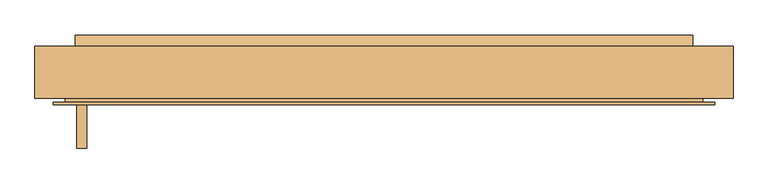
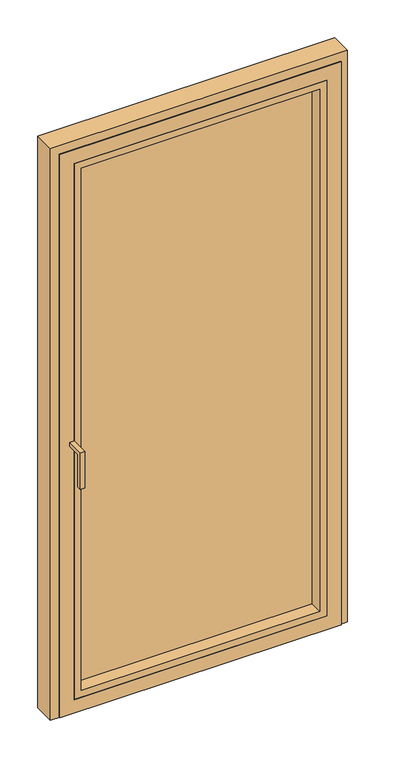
"""IFC4 building model written with IfcOpenShell, lengths in millimetres: door geometry, Reynaers_Masterline 8_Window Door_Inward Opening_Single Vent : Reynaers_Masterline 8_Window Door_Inward Opening_Single Vent."""

from ifc_helpers import new_model, si_unit, point, frame, frame_2d, origin, place, context, project, spatial, polyline, circle_curve, trimmed, segment, composite_curve, outline, extrude, faceted_brep, source, transform, mapped, element, save


def door_154f1db0(model_context):
    return source(origin(), model_context, "Body", "SolidModel", [
        extrude(outline(polyline([(-7.0, 1001.0), (-57.0, 1001.0), (-57.0, 881.0), (-72.0, 881.0), (-72.0, 1016.0), (-7.0, 1016.0), (-7.0, 1001.0)])), frame((-458.0, 0.0, 0.0), z_axis=(1.0, 0.0, 0.0), x_axis=(0.0, 1.0, 0.0)), (0.0, 0.0, 1.0), 15.0),
        extrude(outline(polyline([(80.0, 21.1702749), (73.6, 21.7302024), (73.6, 27.5), (80.0, 27.5), (80.0, 21.1702749)])), frame((-460.0, 0.0, 0.0), z_axis=(1.0, 0.0, 0.0), x_axis=(0.0, 1.0, 0.0)), (0.0, 0.0, 1.0), 920.0),
        extrude(outline(composite_curve([segment(polyline([(62.0000001, 22.7450709), (80.0, 21.1702749), (80.0, 1.7), (75.5000001, 1.7)]), True, "CONTINUOUS"), segment(trimmed(circle_curve(frame_2d((74.7500001, 1.7372388)), 0.7509239), [point((75.5000001, 1.7))], [point((74.0000001, 1.7))], False, "CARTESIAN"), True, "CONTINUOUS"), segment(polyline([(74.0000001, 1.7), (63.6000001, 1.7)]), True, "CONTINUOUS"), segment(trimmed(circle_curve(frame_2d((62.8500001, 1.7372389)), 0.7509239), [point((63.6000001, 1.7))], [point((62.1000001, 1.7))], False, "CARTESIAN"), True, "CONTINUOUS"), segment(polyline([(62.1000001, 1.7), (20.8997844, 1.7)]), True, "CONTINUOUS"), segment(trimmed(circle_curve(frame_2d((20.1497844, 1.7372389)), 0.7509239), [point((20.8997844, 1.7))], [point((19.3997844, 1.7))], False, "CARTESIAN"), True, "CONTINUOUS"), segment(polyline([(19.3997844, 1.7), (8.9997844, 1.7)]), True, "CONTINUOUS"), segment(trimmed(circle_curve(frame_2d((8.2497844, 1.7372389)), 0.7509239), [point((8.9997844, 1.7))], [point((7.4997844, 1.7))], False, "CARTESIAN"), True, "CONTINUOUS"), segment(polyline([(7.4997844, 1.7), (2.9997844, 1.7), (2.9997844, 12.9999426), (62.0000001, 12.9999426), (62.0000001, 22.7450709)]), True, "CONTINUOUS")], self_intersect=False)), frame((-460.0, 0.0, 0.0), z_axis=(1.0, 0.0, 0.0), x_axis=(0.0, 1.0, 0.0)), (0.0, 0.0, 1.0), 920.0),
        extrude(outline(composite_curve([segment(polyline([(97.0, 33.4911328), (97.0, 28.25)]), True, "CONTINUOUS"), segment(trimmed(circle_curve(frame_2d((96.25, 28.25)), 0.75), [point((97.0, 28.25))], [point((95.5, 28.25))], False, "CARTESIAN"), True, "CONTINUOUS"), segment(polyline([(95.5, 28.25), (95.5, 32.4408215), (80.0, 38.0823601), (80.0, 27.5), (73.6, 27.5), (73.6, 47.0), (80.0, 47.0), (80.0, 39.6786268), (97.0, 33.4911328)]), True, "CONTINUOUS")], self_intersect=False)), frame((-460.0, 0.0, 0.0), z_axis=(1.0, 0.0, 0.0), x_axis=(0.0, 1.0, 0.0)), (0.0, 0.0, 1.0), 920.0),
        faceted_brep([(453.0, 70.0, 47.0), (453.0, 80.0, 47.0), (453.0, 80.0, 2053.0), (453.0, 70.0, 2053.0), (416.0, 80.0, 84.0), (416.0, 72.0, 84.0), (416.0, 72.0, 2016.0), (416.0, 80.0, 2016.0), (-453.0, 80.0, 2053.0), (-453.0, 70.0, 2053.0), (-416.0, 72.0, 2016.0), (-416.0, 80.0, 2016.0), (-453.0, 80.0, 47.0), (-453.0, 70.0, 47.0), (-416.0, 72.0, 84.0), (-416.0, 80.0, 84.0), (493.0, -7.0, 2093.0), (-493.0, -7.0, 2093.0), (-493.0, -7.0, 7.0), (493.0, -7.0, 7.0), (443.0, -7.0, 57.0), (-443.0, -7.0, 57.0), (-443.0, -7.0, 2043.0), (443.0, -7.0, 2043.0), (443.0, 72.0, 2043.0), (-443.0, 72.0, 2043.0), (-443.0, 72.0, 57.0), (443.0, 72.0, 57.0), (475.0, -3.0, 2075.0), (475.0, 70.0, 2075.0), (-475.0, 70.0, 2075.0), (-475.0, -3.0, 2075.0), (493.0, -3.0, 2093.0), (-493.0, -3.0, 2093.0), (-475.0, 70.0, 25.0), (-475.0, -3.0, 25.0), (-493.0, -3.0, 7.0), (475.0, 70.0, 25.0), (475.0, -3.0, 25.0), (493.0, -3.0, 7.0)], [[[0, 1, 2, 3]], [[4, 5, 6, 7]], [[3, 2, 8, 9]], [[7, 6, 10, 11]], [[9, 8, 12, 13]], [[11, 10, 14, 15]], [[1, 12, 8, 2], [7, 11, 15, 4]], [[13, 12, 1, 0]], [[16, 17, 18, 19], [20, 21, 22, 23]], [[15, 14, 5, 4]], [[24, 23, 22, 25]], [[25, 22, 21, 26]], [[26, 21, 20, 27]], [[27, 20, 23, 24]], [[25, 26, 27, 24], [6, 5, 14, 10]], [[28, 29, 30, 31]], [[16, 32, 33, 17]], [[31, 30, 34, 35]], [[17, 33, 36, 18]], [[35, 34, 37, 38]], [[18, 36, 39, 19]], [[29, 37, 34, 30], [9, 13, 0, 3]], [[38, 37, 29, 28]], [[32, 39, 36, 33], [31, 35, 38, 28]], [[19, 39, 32, 16]]]),
        faceted_brep([(460.0, 80.0, 1.0), (520.0, 80.0, 1.0), (520.0, 3.0, 1.0), (487.0, 3.0, 1.0), (487.0, 76.0, 1.0), (460.0, 76.0, 1.0), (460.0, 80.0, 2060.0), (-460.0, 80.0, 2060.0), (-460.0, 80.0, 1.0), (-520.0, 80.0, 1.0), (-520.0, 80.0, 2120.0), (520.0, 80.0, 2120.0), (520.0, 3.0, 2120.0), (-520.0, 3.0, 2120.0), (-520.0, 3.0, 1.0), (-487.0, 3.0, 1.0), (-487.0, 3.0, 2087.0), (487.0, 3.0, 2087.0), (460.0, 76.0, 2060.0), (-460.0, 76.0, 2060.0), (-460.0, 76.0, 1.0), (-487.0, 76.0, 1.0), (487.0, 76.0, 2087.0), (-487.0, 76.0, 2087.0)], [[[0, 1, 2, 3, 4, 5]], [[1, 0, 6, 7, 8, 9, 10, 11]], [[2, 1, 11, 12]], [[3, 2, 12, 13, 14, 15, 16, 17]], [[0, 5, 18, 6]], [[12, 11, 10, 13]], [[6, 18, 19, 7]], [[8, 20, 21, 15, 14, 9]], [[13, 10, 9, 14]], [[7, 19, 20, 8]], [[22, 17, 16, 23]], [[23, 16, 15, 21]], [[4, 3, 17, 22]], [[5, 4, 22, 23, 21, 20, 19, 18]]]),
        extrude(outline(polyline([(2043.0, -443.0), (57.0, -443.0), (57.0, 443.0), (2043.0, 443.0), (2043.0, -443.0)]), holes=[polyline([(2018.0, 418.0), (82.0, 418.0), (82.0, -418.0), (2018.0, -418.0), (2018.0, 418.0)])]), frame((0.0, -7.0, 0.0), z_axis=(0.0, 1.0, 0.0), x_axis=(0.0, 0.0, 1.0)), (0.0, 0.0, 1.0), 46.0),
        extrude(outline(polyline([(435.0, 45.0), (-435.0, 45.0), (-435.0, 72.0), (435.0, 72.0), (435.0, 45.0)])), frame((0.0, 0.0, 65.0), z_axis=(0.0, 0.0, 1.0), x_axis=(1.0, 0.0, 0.0)), (0.0, 0.0, 1.0), 1970.0),
    ])


if __name__ == "__main__":
    model = new_model("IFC4")
    model_context = context("Model", 3, world=origin())
    ifc_project = project(units=[si_unit("LENGTHUNIT", "METRE", prefix="MILLI")], contexts=[model_context])
    site = spatial("IfcSite", under=ifc_project)
    building = spatial("IfcBuilding", under=site)
    placement = place(None, origin())
    door_shape = door_154f1db0(model_context)
    element("IfcDoor", 1, ObjectType="Reynaers_Masterline 8_Window Door_Inward Opening_Single Vent : Reynaers_Masterline 8_Window Door_Inward Opening_Single Vent", at=placement, inside=building, context=model_context, shape_type="MappedRepresentation", body=[
        mapped(door_shape, transform((0.0, 0.0, 0.0), x_axis=(1.0, 0.0, 0.0), y_axis=(0.0, 1.0, 0.0), z_axis=(0.0, 0.0, 1.0))),
    ])
    save(model, "model.ifc")
